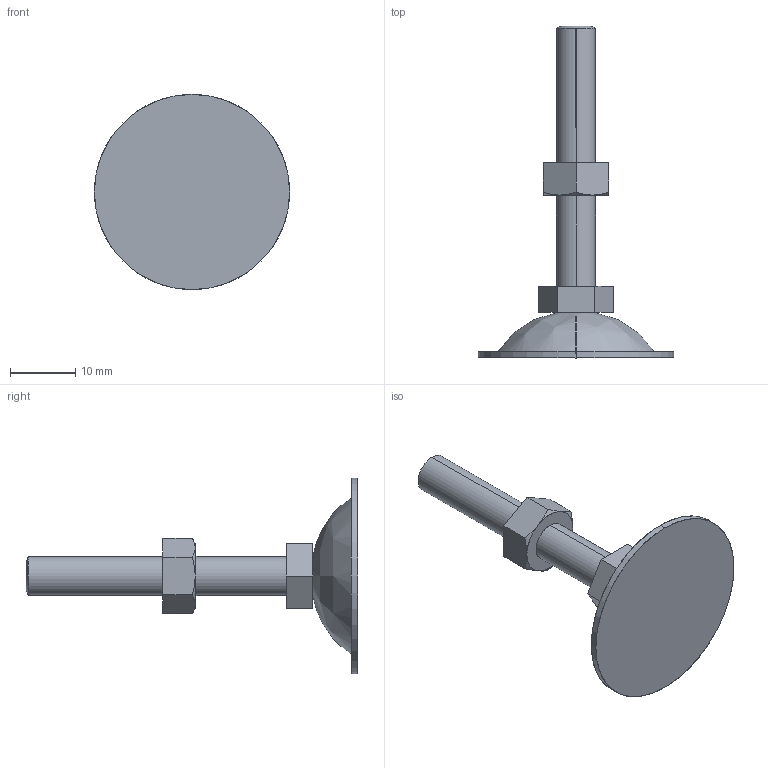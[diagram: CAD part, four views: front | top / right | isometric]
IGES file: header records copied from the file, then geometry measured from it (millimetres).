
Start section: SolidWorks IGES file using analytic representation for surfaces
Global section: file name: C:\Users\admin\Desktop\IGES\J3LF.igs; native system: SolidWorks 2014; preprocessor: SolidWorks 2014; author: admin_pc; date: 170524.165919; units: millimetre
Bounding box: 30 x 51 x 30 mm (x, y, z)
Surface area: 3017.1 mm2 (no closed solid volume)
Topology: 0 solids, 0 shells, 43 faces, 566 edges, 566 vertices
Faces by surface type: revolution 22, bspline 21
